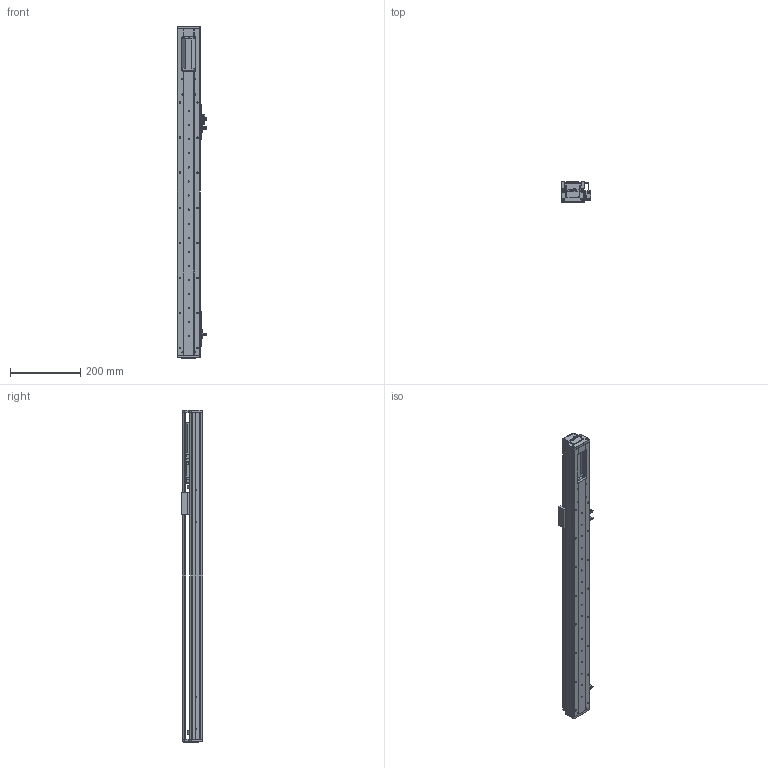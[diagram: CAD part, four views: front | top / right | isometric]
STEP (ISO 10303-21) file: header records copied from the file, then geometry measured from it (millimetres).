
FILE_DESCRIPTION (( 'STEP AP203' ), '1' );
FILE_NAME ('RY60-L1210-300-IK.SLDASM_600.step', '2021-02-22T05:12:13', ( '盈信电脑' ), ( '东莞市道滘镇水果街19号' ), 'SwSTEP 2.0', 'SolidWorks 2012', '' );
FILE_SCHEMA (( 'CONFIG_CONTROL_DESIGN' ));
Length unit declared in the file: millimetre
Products named in the file (12): 滅袉蝶18-10; RY60-L1210-300-IK.SLDASM_600; 侂狟100W; RY60-内置电机板100W（m3）; 覜茼ん672; RY60綴裔啣; 672嫖萇羲壽假蚾釱; RY80俋离覜茼え; RY60萇儂傷盓傅釱; RY60-300倰第裔啣-IK_600; RY60臏賑輸; RY60-300倰第菁釱-IK_600
Assembly tree (18 placements, depth 2):
  RY60-L1210-300-IK.SLDASM_600
    RY60-300倰第菁釱-IK_600
    RY60臏賑輸
    RY60-300倰第裔啣-IK_600
    RY60萇儂傷盓傅釱
    672嫖萇羲壽假蚾釱  x2
    RY60綴裔啣  x2
    覜茼ん672  x3
    RY80俋离覜茼え
    侂狟100W
    滅袉蝶18-10  x4
    RY60-内置电机板100W（m3）
Bounding box: 83.7 x 61 x 946 mm (x, y, z)
Volume: 1159335.8 mm3; surface area: 574948.5 mm2
Topology: 18 solids, 18 shells, 1546 faces, 4347 edges, 2813 vertices
Faces by surface type: plane 817, cylinder 615, cone 98, bspline 16
Entity records: 42784 total; most frequent: CARTESIAN_POINT 10530, ORIENTED_EDGE 6590, DIRECTION 6256, EDGE_CURVE 3295, VERTEX_POINT 2159, AXIS2_PLACEMENT_3D 2119, LINE 2018, VECTOR 2018
